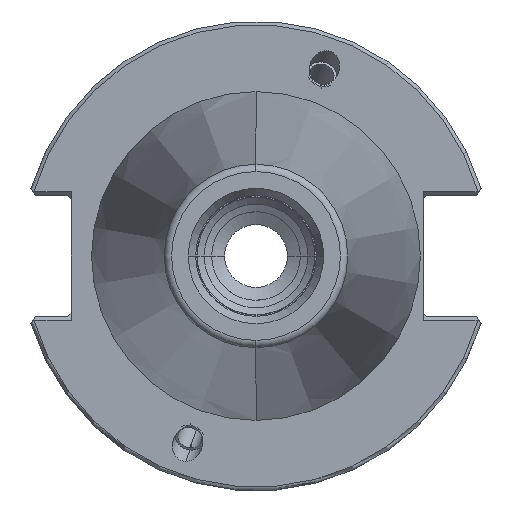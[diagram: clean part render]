
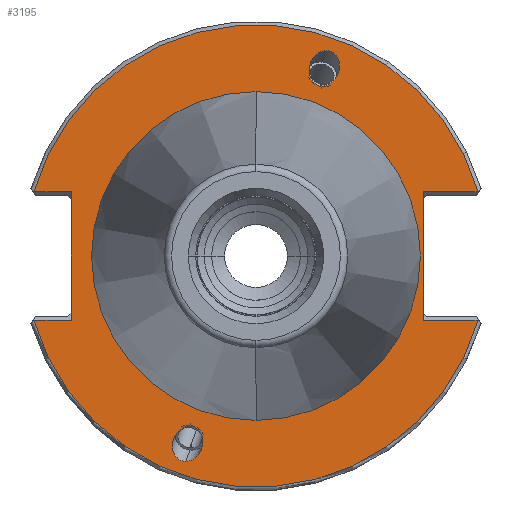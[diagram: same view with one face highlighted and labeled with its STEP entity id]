
A CAD part, left-side view. The second image highlights one B-rep face of the part: STEP entity #3195.
In plain terms, the highlighted planar face has unit normal (-1, 0, 0).
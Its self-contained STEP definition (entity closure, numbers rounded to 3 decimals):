
#116=CARTESIAN_POINT('',(3.175,0.,0.));
#117=DIRECTION('',(1.,0.,0.));
#118=DIRECTION('',(0.,1.,0.));
#119=AXIS2_PLACEMENT_3D('',#116,#117,#118);
#121=CARTESIAN_POINT('',(3.175,0.,0.));
#122=DIRECTION('',(1.,0.,0.));
#123=DIRECTION('',(0.,-1.,0.));
#124=AXIS2_PLACEMENT_3D('',#121,#122,#123);
#126=CARTESIAN_POINT('',(3.175,9.498,-27.766));
#127=CARTESIAN_POINT('',(3.175,9.257,-27.766));
#128=CARTESIAN_POINT('',(3.175,8.727,-27.663));
#129=CARTESIAN_POINT('',(3.175,7.941,-27.117));
#130=CARTESIAN_POINT('',(3.175,7.379,-26.257));
#131=CARTESIAN_POINT('',(3.175,7.151,-25.372));
#132=CARTESIAN_POINT('',(3.175,7.185,-24.486));
#133=CARTESIAN_POINT('',(3.175,7.557,-23.627));
#134=CARTESIAN_POINT('',(3.175,8.223,-23.08));
#135=CARTESIAN_POINT('',(3.175,8.731,-22.978));
#136=CARTESIAN_POINT('',(3.175,8.971,-22.978));
#138=CARTESIAN_POINT('',(3.175,8.971,-22.978));
#139=CARTESIAN_POINT('',(3.175,9.212,-22.978));
#140=CARTESIAN_POINT('',(3.175,9.742,-23.08));
#141=CARTESIAN_POINT('',(3.175,10.528,-23.627));
#142=CARTESIAN_POINT('',(3.175,11.09,-24.486));
#143=CARTESIAN_POINT('',(3.175,11.318,-25.372));
#144=CARTESIAN_POINT('',(3.175,11.284,-26.257));
#145=CARTESIAN_POINT('',(3.175,10.912,-27.117));
#146=CARTESIAN_POINT('',(3.175,10.246,-27.663));
#147=CARTESIAN_POINT('',(3.175,9.738,-27.766));
#148=CARTESIAN_POINT('',(3.175,9.498,-27.766));
#150=CARTESIAN_POINT('',(3.175,-9.498,27.766));
#151=CARTESIAN_POINT('',(3.175,-9.257,27.766));
#152=CARTESIAN_POINT('',(3.175,-8.727,27.663));
#153=CARTESIAN_POINT('',(3.175,-7.941,27.117));
#154=CARTESIAN_POINT('',(3.175,-7.379,26.257));
#155=CARTESIAN_POINT('',(3.175,-7.151,25.372));
#156=CARTESIAN_POINT('',(3.175,-7.185,24.486));
#157=CARTESIAN_POINT('',(3.175,-7.557,23.627));
#158=CARTESIAN_POINT('',(3.175,-8.223,23.08));
#159=CARTESIAN_POINT('',(3.175,-8.731,22.978));
#160=CARTESIAN_POINT('',(3.175,-8.971,22.978));
#162=CARTESIAN_POINT('',(3.175,-8.971,22.978));
#163=CARTESIAN_POINT('',(3.175,-9.212,22.978));
#164=CARTESIAN_POINT('',(3.175,-9.742,23.08));
#165=CARTESIAN_POINT('',(3.175,-10.528,23.627));
#166=CARTESIAN_POINT('',(3.175,-11.09,24.486));
#167=CARTESIAN_POINT('',(3.175,-11.318,25.372));
#168=CARTESIAN_POINT('',(3.175,-11.284,26.257));
#169=CARTESIAN_POINT('',(3.175,-10.912,27.117));
#170=CARTESIAN_POINT('',(3.175,-10.246,27.663));
#171=CARTESIAN_POINT('',(3.175,-9.738,27.766));
#172=CARTESIAN_POINT('',(3.175,-9.498,27.766));
#174=DIRECTION('',(0.,-1.,0.));
#175=VECTOR('',#174,5.017);
#176=CARTESIAN_POINT('',(3.175,30.017,8.69));
#177=LINE('',#176,#175);
#178=DIRECTION('',(0.,-1.,0.));
#179=VECTOR('',#178,7.417);
#180=CARTESIAN_POINT('',(3.175,-22.6,8.69));
#181=LINE('',#180,#179);
#182=DIRECTION('',(0.,1.,0.));
#183=VECTOR('',#182,7.417);
#184=CARTESIAN_POINT('',(3.175,-30.017,-8.69));
#185=LINE('',#184,#183);
#186=DIRECTION('',(0.,1.,0.));
#187=VECTOR('',#186,5.017);
#188=CARTESIAN_POINT('',(3.175,25.,-8.69));
#189=LINE('',#188,#187);
#782=DIRECTION('',(0.,0.,-1.));
#783=VECTOR('',#782,17.38);
#784=CARTESIAN_POINT('',(3.175,25.,8.69));
#785=LINE('',#784,#783);
#924=DIRECTION('',(0.,0.,1.));
#925=VECTOR('',#924,17.38);
#926=CARTESIAN_POINT('',(3.175,-22.6,-8.69));
#927=LINE('',#926,#925);
#1004=CARTESIAN_POINT('',(3.175,0.,0.));
#1005=DIRECTION('',(-1.,0.,0.));
#1006=DIRECTION('',(0.,-0.961,0.278));
#1007=AXIS2_PLACEMENT_3D('',#1004,#1005,#1006);
#1078=CARTESIAN_POINT('',(3.175,0.,0.));
#1079=DIRECTION('',(-1.,0.,0.));
#1080=DIRECTION('',(0.,0.961,-0.278));
#1081=AXIS2_PLACEMENT_3D('',#1078,#1079,#1080);
#2622=CARTESIAN_POINT('',(3.175,22.2,0.));
#2623=CARTESIAN_POINT('',(3.175,-22.2,0.));
#2624=VERTEX_POINT('',#2622);
#2625=VERTEX_POINT('',#2623);
#2688=VERTEX_POINT('',#126);
#2689=VERTEX_POINT('',#136);
#2722=CARTESIAN_POINT('',(3.175,30.017,8.69));
#2723=CARTESIAN_POINT('',(3.175,25.,8.69));
#2724=VERTEX_POINT('',#2722);
#2725=VERTEX_POINT('',#2723);
#2730=CARTESIAN_POINT('',(3.175,25.,-8.69));
#2731=CARTESIAN_POINT('',(3.175,30.017,-8.69));
#2732=VERTEX_POINT('',#2730);
#2733=VERTEX_POINT('',#2731);
#2738=CARTESIAN_POINT('',(3.175,-22.6,8.69));
#2739=CARTESIAN_POINT('',(3.175,-30.017,8.69));
#2740=VERTEX_POINT('',#2738);
#2741=VERTEX_POINT('',#2739);
#2746=CARTESIAN_POINT('',(3.175,-30.017,
-8.69));
#2747=CARTESIAN_POINT('',(3.175,-22.6,-8.69));
#2748=VERTEX_POINT('',#2746);
#2749=VERTEX_POINT('',#2747);
#2784=CARTESIAN_POINT('',(3.175,-9.498,27.766));
#2785=VERTEX_POINT('',#2784);
#2786=CARTESIAN_POINT('',(3.175,-8.971,22.978));
#2787=VERTEX_POINT('',#2786);
#3156=CARTESIAN_POINT('',(3.175,0.,0.));
#3157=DIRECTION('',(1.,0.,0.));
#3158=DIRECTION('',(0.,0.,1.));
#3159=AXIS2_PLACEMENT_3D('',#3156,#3157,#3158);
#3160=PLANE('',#3159);
#3162=ORIENTED_EDGE('',*,*,#3161,.F.);
#3164=ORIENTED_EDGE('',*,*,#3163,.F.);
#3166=ORIENTED_EDGE('',*,*,#3165,.F.);
#3168=ORIENTED_EDGE('',*,*,#3167,.F.);
#3170=ORIENTED_EDGE('',*,*,#3169,.F.);
#3172=ORIENTED_EDGE('',*,*,#3171,.F.);
#3174=ORIENTED_EDGE('',*,*,#3173,.F.);
#3176=ORIENTED_EDGE('',*,*,#3175,.F.);
#3177=EDGE_LOOP('',(#3162,#3164,#3166,#3168,#3170,#3172,#3174,#3176));
#3178=FACE_OUTER_BOUND('',#3177,.F.);
#3180=ORIENTED_EDGE('',*,*,#3179,.T.);
#3182=ORIENTED_EDGE('',*,*,#3181,.T.);
#3183=EDGE_LOOP('',(#3180,#3182));
#3184=FACE_BOUND('',#3183,.F.);
#3186=ORIENTED_EDGE('',*,*,#3185,.T.);
#3188=ORIENTED_EDGE('',*,*,#3187,.T.);
#3189=EDGE_LOOP('',(#3186,#3188));
#3190=FACE_BOUND('',#3189,.F.);
#3191=ORIENTED_EDGE('',*,*,#3109,.F.);
#3192=ORIENTED_EDGE('',*,*,#3124,.F.);
#3193=EDGE_LOOP('',(#3191,#3192));
#3194=FACE_BOUND('',#3193,.F.);
#3195=ADVANCED_FACE('',(#3178,#3184,#3190,#3194),#3160,.F.);
#120=CIRCLE('',#119,22.2);
#125=CIRCLE('',#124,22.2);
#137=B_SPLINE_CURVE_WITH_KNOTS('',3,(#126,#127,#128,#129,#130,#131,#132,#133,
#134,#135,#136),.UNSPECIFIED.,.F.,.F.,(4,1,1,1,1,1,1,1,4),(0.,0.125,0.25,
0.375,0.5,0.625,0.75,0.875,1.),.UNSPECIFIED.);
#149=B_SPLINE_CURVE_WITH_KNOTS('',3,(#138,#139,#140,#141,#142,#143,#144,#145,
#146,#147,#148),.UNSPECIFIED.,.F.,.F.,(4,1,1,1,1,1,1,1,4),(0.,0.125,0.25,
0.375,0.5,0.625,0.75,0.875,1.),.UNSPECIFIED.);
#161=B_SPLINE_CURVE_WITH_KNOTS('',3,(#150,#151,#152,#153,#154,#155,#156,#157,
#158,#159,#160),.UNSPECIFIED.,.F.,.F.,(4,1,1,1,1,1,1,1,4),(0.,0.125,0.25,
0.375,0.5,0.625,0.75,0.875,1.),.UNSPECIFIED.);
#173=B_SPLINE_CURVE_WITH_KNOTS('',3,(#162,#163,#164,#165,#166,#167,#168,#169,
#170,#171,#172),.UNSPECIFIED.,.F.,.F.,(4,1,1,1,1,1,1,1,4),(0.,0.125,0.25,
0.375,0.5,0.625,0.75,0.875,1.),.UNSPECIFIED.);
#1008=CIRCLE('',#1007,31.25);
#1082=CIRCLE('',#1081,31.25);
#3109=EDGE_CURVE('',#2624,#2625,#120,.T.);
#3124=EDGE_CURVE('',#2625,#2624,#125,.T.);
#3161=EDGE_CURVE('',#2724,#2725,#177,.T.);
#3163=EDGE_CURVE('',#2741,#2724,#1008,.T.);
#3165=EDGE_CURVE('',#2740,#2741,#181,.T.);
#3167=EDGE_CURVE('',#2749,#2740,#927,.T.);
#3169=EDGE_CURVE('',#2748,#2749,#185,.T.);
#3171=EDGE_CURVE('',#2733,#2748,#1082,.T.);
#3173=EDGE_CURVE('',#2732,#2733,#189,.T.);
#3175=EDGE_CURVE('',#2725,#2732,#785,.T.);
#3179=EDGE_CURVE('',#2688,#2689,#137,.T.);
#3181=EDGE_CURVE('',#2689,#2688,#149,.T.);
#3185=EDGE_CURVE('',#2785,#2787,#161,.T.);
#3187=EDGE_CURVE('',#2787,#2785,#173,.T.);
